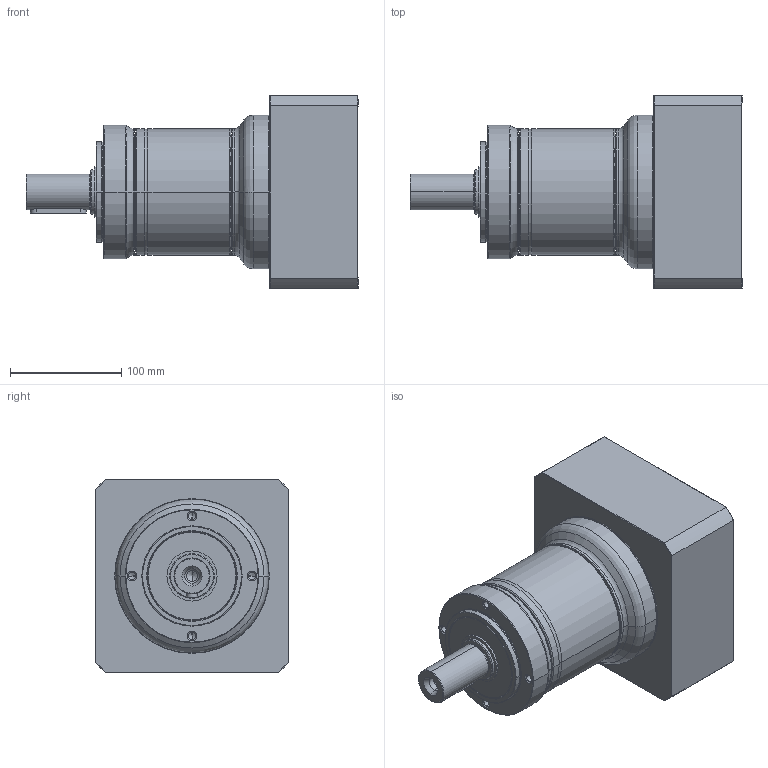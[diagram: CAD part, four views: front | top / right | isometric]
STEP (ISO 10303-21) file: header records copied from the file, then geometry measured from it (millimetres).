
FILE_DESCRIPTION((''),'2;1');
FILE_NAME('PE2-120_2ST_38-P0411900101_ASM','2017-06-03T',('d01943'),(''),'PRO/ENGINEER BY PARAMETRIC TECHNOLOGY CORPORATION, 2008410','PRO/ENGINEER BY PARAMETRIC TECHNOLOGY CORPORATION, 2008410','');
FILE_SCHEMA(('CONFIG_CONTROL_DESIGN'));
Length unit declared in the file: millimetre
Products named in the file (9): P1323410001; P0251400001; P1324400501; P0350401001; P0941405001; P0503900010; P0411900101; P1702600001; PE2-120_2ST_38-P0411900101_ASM
Assembly tree (8 placements, depth 2):
  PE2-120_2ST_38-P0411900101_ASM
    P1323410001
    P0251400001
    P1324400501
    P0350401001
    P0941405001
    P0503900010
    P0411900101
    P1702600001
Bounding box: 298.5 x 174 x 174 mm (x, y, z)
Volume: 3036230.2 mm3; surface area: 365153 mm2
Topology: 8 solids, 8 shells, 480 faces, 1049 edges, 600 vertices
Faces by surface type: cone 142, cylinder 142, torus 102, plane 78, bspline 16
Entity records: 17715 total; most frequent: CARTESIAN_POINT 6964, DIRECTION 2457, ORIENTED_EDGE 2034, AXIS2_PLACEMENT_3D 1056, EDGE_CURVE 1017, VERTEX_POINT 600, CIRCLE 575, EDGE_LOOP 543
